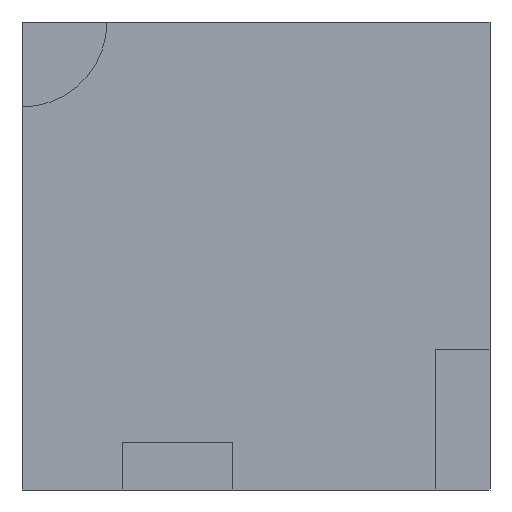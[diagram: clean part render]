
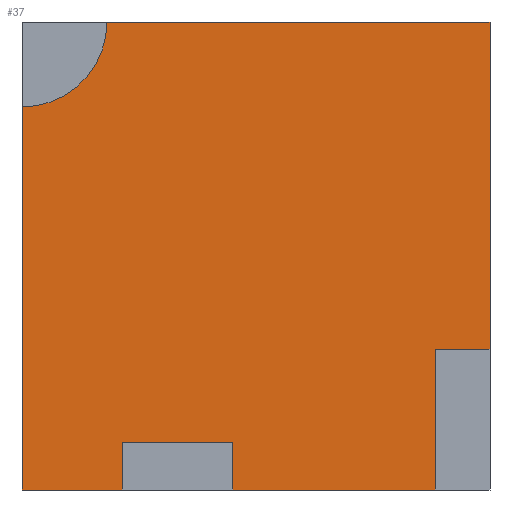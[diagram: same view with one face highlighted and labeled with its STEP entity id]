
A CAD part, front view. The second image highlights one B-rep face of the part: STEP entity #37.
In plain terms, the highlighted planar face has unit normal (0, -1, 0).
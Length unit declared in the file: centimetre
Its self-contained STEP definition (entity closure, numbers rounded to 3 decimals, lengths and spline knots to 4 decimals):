
#4 = VECTOR ( 'NONE', #89, 100. ) ;
#27 = CARTESIAN_POINT ( 'NONE',  ( 450.6311, 0., 100.7682 ) ) ;
#31 = CARTESIAN_POINT ( 'NONE',  ( 181.5737, 0., 1000. ) ) ;
#32 = DIRECTION ( 'NONE',  ( 1., 0., 0. ) ) ;
#37 = ADVANCED_FACE ( 'NONE', ( #39 ), #383, .F. ) ;
#38 = VERTEX_POINT ( 'NONE', #434 ) ;
#39 = FACE_OUTER_BOUND ( 'NONE', #699, .T. ) ;
#52 = CARTESIAN_POINT ( 'NONE',  ( 883.4751, 0., 301.0086 ) ) ;
#61 = CARTESIAN_POINT ( 'NONE',  ( 1000., 0., 1000. ) ) ;
#65 = ORIENTED_EDGE ( 'NONE', *, *, #569, .F. ) ;
#68 = DIRECTION ( 'NONE',  ( 0., 0., -1. ) ) ;
#69 = ORIENTED_EDGE ( 'NONE', *, *, #672, .T. ) ;
#74 = VERTEX_POINT ( 'NONE', #31 ) ;
#88 = EDGE_CURVE ( 'NONE', #249, #736, #604, .T. ) ;
#89 = DIRECTION ( 'NONE',  ( 0., 0., -1. ) ) ;
#91 = AXIS2_PLACEMENT_3D ( 'NONE', #486, #146, #333 ) ;
#101 = CARTESIAN_POINT ( 'NONE',  ( 1000., 0., 301.0086 ) ) ;
#134 = LINE ( 'NONE', #526, #339 ) ;
#146 = DIRECTION ( 'NONE',  ( 0., 1., 0. ) ) ;
#147 = DIRECTION ( 'NONE',  ( -1., 0., 0. ) ) ;
#155 = CARTESIAN_POINT ( 'NONE',  ( 0., 0., 1000. ) ) ;
#163 = ORIENTED_EDGE ( 'NONE', *, *, #311, .T. ) ;
#171 = VECTOR ( 'NONE', #186, 100. ) ;
#176 = VERTEX_POINT ( 'NONE', #336 ) ;
#186 = DIRECTION ( 'NONE',  ( 1., 0., 0. ) ) ;
#198 = LINE ( 'NONE', #600, #633 ) ;
#212 = CARTESIAN_POINT ( 'NONE',  ( 0., 0., 1000. ) ) ;
#233 = CARTESIAN_POINT ( 'NONE',  ( 450.6311, 0., 0. ) ) ;
#240 = CARTESIAN_POINT ( 'NONE',  ( 0., 0., 1000. ) ) ;
#248 = CARTESIAN_POINT ( 'NONE',  ( 214.211, 0., 0. ) ) ;
#249 = VERTEX_POINT ( 'NONE', #529 ) ;
#273 = EDGE_CURVE ( 'NONE', #419, #523, #134, .T. ) ;
#294 = ORIENTED_EDGE ( 'NONE', *, *, #483, .F. ) ;
#303 = LINE ( 'NONE', #584, #171 ) ;
#304 = VECTOR ( 'NONE', #68, 100. ) ;
#305 = VECTOR ( 'NONE', #147, 100. ) ;
#311 = EDGE_CURVE ( 'NONE', #736, #651, #303, .T. ) ;
#321 = CARTESIAN_POINT ( 'NONE',  ( 450.6311, 0., 0. ) ) ;
#323 = CARTESIAN_POINT ( 'NONE',  ( 0., 0., 0. ) ) ;
#333 = DIRECTION ( 'NONE',  ( 0., 0., 1. ) ) ;
#336 = CARTESIAN_POINT ( 'NONE',  ( 214.211, 0., 100.7682 ) ) ;
#339 = VECTOR ( 'NONE', #688, 100. ) ;
#359 = EDGE_CURVE ( 'NONE', #176, #651, #637, .T. ) ;
#383 = PLANE ( 'NONE',  #91 ) ;
#409 = LINE ( 'NONE', #560, #686 ) ;
#411 = DIRECTION ( 'NONE',  ( 0., -1., 0. ) ) ;
#419 = VERTEX_POINT ( 'NONE', #61 ) ;
#433 = VECTOR ( 'NONE', #32, 100. ) ;
#434 = CARTESIAN_POINT ( 'NONE',  ( 883.4751, 0., 301.0086 ) ) ;
#435 = LINE ( 'NONE', #441, #305 ) ;
#437 = DIRECTION ( 'NONE',  ( 1., 0., 0. ) ) ;
#441 = CARTESIAN_POINT ( 'NONE',  ( 214.211, 0., 100.7682 ) ) ;
#443 = VERTEX_POINT ( 'NONE', #684 ) ;
#444 = EDGE_CURVE ( 'NONE', #38, #443, #409, .T. ) ;
#446 = VECTOR ( 'NONE', #495, 100. ) ;
#450 = DIRECTION ( 'NONE',  ( -1., 0., 0. ) ) ;
#474 = ORIENTED_EDGE ( 'NONE', *, *, #273, .F. ) ;
#483 = EDGE_CURVE ( 'NONE', #249, #74, #650, .T. ) ;
#486 = CARTESIAN_POINT ( 'NONE',  ( 0., 0., 1000. ) ) ;
#491 = CARTESIAN_POINT ( 'NONE',  ( 214.211, 0., 0. ) ) ;
#493 = ORIENTED_EDGE ( 'NONE', *, *, #695, .F. ) ;
#495 = DIRECTION ( 'NONE',  ( 0., 0., 1. ) ) ;
#511 = LINE ( 'NONE', #52, #693 ) ;
#512 = VERTEX_POINT ( 'NONE', #233 ) ;
#523 = VERTEX_POINT ( 'NONE', #101 ) ;
#526 = CARTESIAN_POINT ( 'NONE',  ( 1000., 0., 1000. ) ) ;
#529 = CARTESIAN_POINT ( 'NONE',  ( 0., 0., 818.4263 ) ) ;
#530 = ORIENTED_EDGE ( 'NONE', *, *, #444, .F. ) ;
#560 = CARTESIAN_POINT ( 'NONE',  ( 883.4751, 0., 301.0086 ) ) ;
#569 = EDGE_CURVE ( 'NONE', #523, #38, #511, .T. ) ;
#584 = CARTESIAN_POINT ( 'NONE',  ( 0., 0., 0. ) ) ;
#585 = ORIENTED_EDGE ( 'NONE', *, *, #88, .T. ) ;
#600 = CARTESIAN_POINT ( 'NONE',  ( 0., 0., 0. ) ) ;
#604 = LINE ( 'NONE', #212, #4 ) ;
#609 = LINE ( 'NONE', #321, #446 ) ;
#615 = ORIENTED_EDGE ( 'NONE', *, *, #624, .F. ) ;
#624 = EDGE_CURVE ( 'NONE', #512, #673, #609, .T. ) ;
#628 = DIRECTION ( 'NONE',  ( 0., 0., -1. ) ) ;
#633 = VECTOR ( 'NONE', #437, 100. ) ;
#637 = LINE ( 'NONE', #248, #304 ) ;
#650 = CIRCLE ( 'NONE', #705, 181.5737 ) ;
#651 = VERTEX_POINT ( 'NONE', #491 ) ;
#672 = EDGE_CURVE ( 'NONE', #512, #443, #198, .T. ) ;
#673 = VERTEX_POINT ( 'NONE', #27 ) ;
#682 = DIRECTION ( 'NONE',  ( 0., 0., -1. ) ) ;
#684 = CARTESIAN_POINT ( 'NONE',  ( 883.4751, 0., 0. ) ) ;
#686 = VECTOR ( 'NONE', #628, 100. ) ;
#688 = DIRECTION ( 'NONE',  ( 0., 0., -1. ) ) ;
#693 = VECTOR ( 'NONE', #450, 100. ) ;
#695 = EDGE_CURVE ( 'NONE', #74, #419, #704, .T. ) ;
#699 = EDGE_LOOP ( 'NONE', ( #69, #530, #65, #474, #493, #294, #585, #163, #706, #731, #615 ) ) ;
#704 = LINE ( 'NONE', #155, #433 ) ;
#705 = AXIS2_PLACEMENT_3D ( 'NONE', #240, #411, #682 ) ;
#706 = ORIENTED_EDGE ( 'NONE', *, *, #359, .F. ) ;
#711 = EDGE_CURVE ( 'NONE', #673, #176, #435, .T. ) ;
#731 = ORIENTED_EDGE ( 'NONE', *, *, #711, .F. ) ;
#736 = VERTEX_POINT ( 'NONE', #323 ) ;
